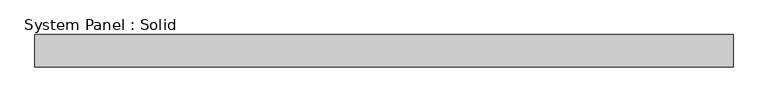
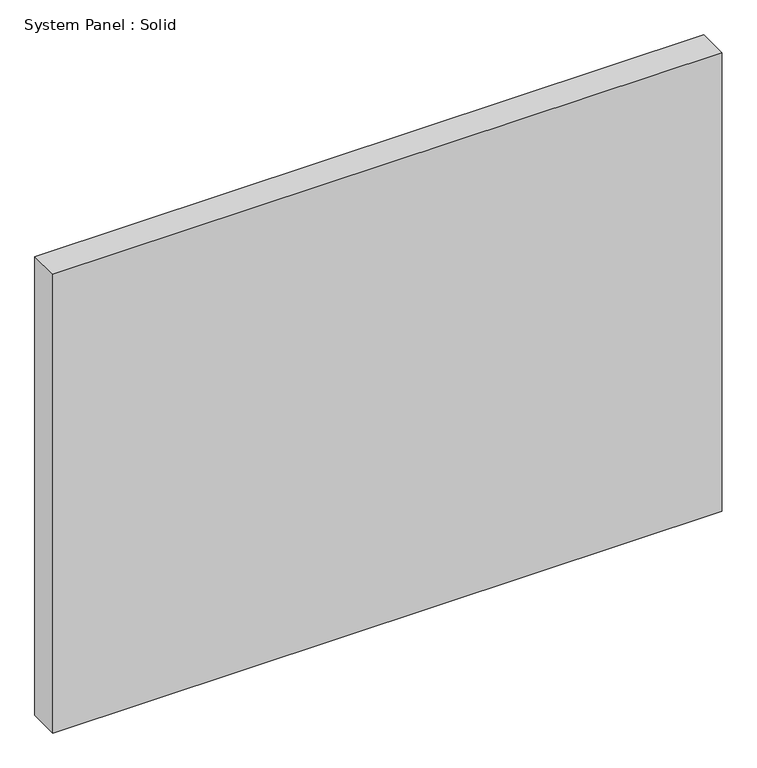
"""IFC4 building model written with IfcOpenShell, lengths in millimetres: plate geometry, System Panel : Solid."""

from ifc_helpers import new_model, si_unit, origin, origin_with_axes, place, context, project, spatial, polyline, outline, extrude, source, transform, mapped, element, save


def system_panel_solid_ebb75371(model_context):
    return source(origin(), model_context, "Body", "SweptSolid", [
        extrude(outline(polyline([(687.9166666, -19.05), (-687.9166666, -19.05), (-687.9166666, 44.45), (687.9166666, 44.45), (687.9166666, -19.05)])), origin_with_axes(), (0.0, 0.0, 1.0), 996.95),
    ])


if __name__ == "__main__":
    model = new_model("IFC4")
    model_context = context("Model", 3, world=origin())
    ifc_project = project(units=[si_unit("LENGTHUNIT", "METRE", prefix="MILLI")], contexts=[model_context])
    site = spatial("IfcSite", under=ifc_project)
    building = spatial("IfcBuilding", under=site)
    placement = place(None, origin())
    system_panel_solid_shape = system_panel_solid_ebb75371(model_context)
    element("IfcPlate", 1, ObjectType="System Panel : Solid", at=placement, inside=building, context=model_context, shape_type="MappedRepresentation", body=[
        mapped(system_panel_solid_shape, transform((0.0, 0.0, 0.0), x_axis=(1.0, 0.0, 0.0), y_axis=(0.0, 1.0, 0.0), z_axis=(0.0, 0.0, 1.0))),
    ])
    save(model, "model.ifc")
